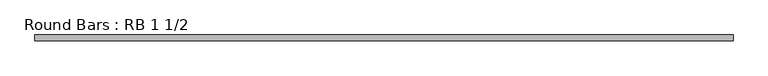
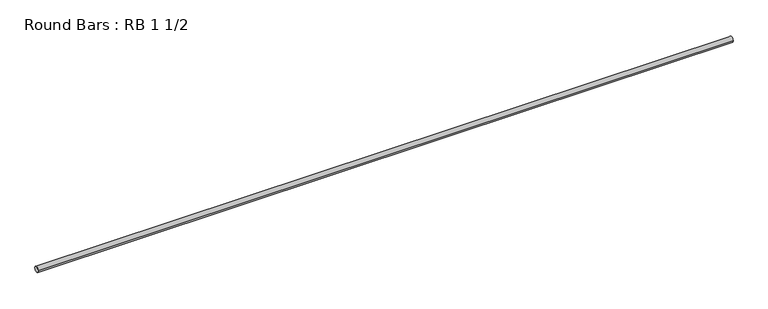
"""IFC4 building model written with IfcOpenShell, lengths in millimetres: member geometry, Round Bars : RB 1 1/2."""

from ifc_helpers import new_model, si_unit, point, frame, origin, origin_2d, place, context, project, spatial, circle_curve, trimmed, segment, composite_curve, outline, extrude, source, transform, mapped, element, save


def round_bars_rb_1_1_2_4a88bb6f(model_context):
    return source(origin(), model_context, "Body", "SweptSolid", [
        extrude(outline(composite_curve([segment(trimmed(circle_curve(origin_2d(), 19.05), [point((19.05, 0.0))], [point((-19.05, 0.0))], False, "CARTESIAN"), True, "CONTINUOUS"), segment(trimmed(circle_curve(origin_2d(), 19.05), [point((-19.05, 0.0))], [point((19.05, 0.0))], False, "CARTESIAN"), True, "CONTINUOUS")], self_intersect=False)), frame((-2259.1674436, 0.0, 0.0), z_axis=(1.0, 0.0, 0.0), x_axis=(0.0, 1.0, 0.0)), (0.0, 0.0, 1.0), 4640.3278733),
    ])


if __name__ == "__main__":
    model = new_model("IFC4")
    model_context = context("Model", 3, world=origin())
    ifc_project = project(units=[si_unit("LENGTHUNIT", "METRE", prefix="MILLI")], contexts=[model_context])
    site = spatial("IfcSite", under=ifc_project)
    building = spatial("IfcBuilding", under=site)
    placement = place(None, origin())
    round_bars_rb_1_1_2_shape = round_bars_rb_1_1_2_4a88bb6f(model_context)
    element("IfcMember", 1, ObjectType="Round Bars : RB 1 1/2", at=placement, inside=building, context=model_context, shape_type="MappedRepresentation", body=[
        mapped(round_bars_rb_1_1_2_shape, transform((0.0, 0.0, 0.0), x_axis=(1.0, 0.0, 0.0), y_axis=(0.0, 1.0, 0.0), z_axis=(0.0, 0.0, 1.0))),
    ])
    save(model, "model.ifc")
